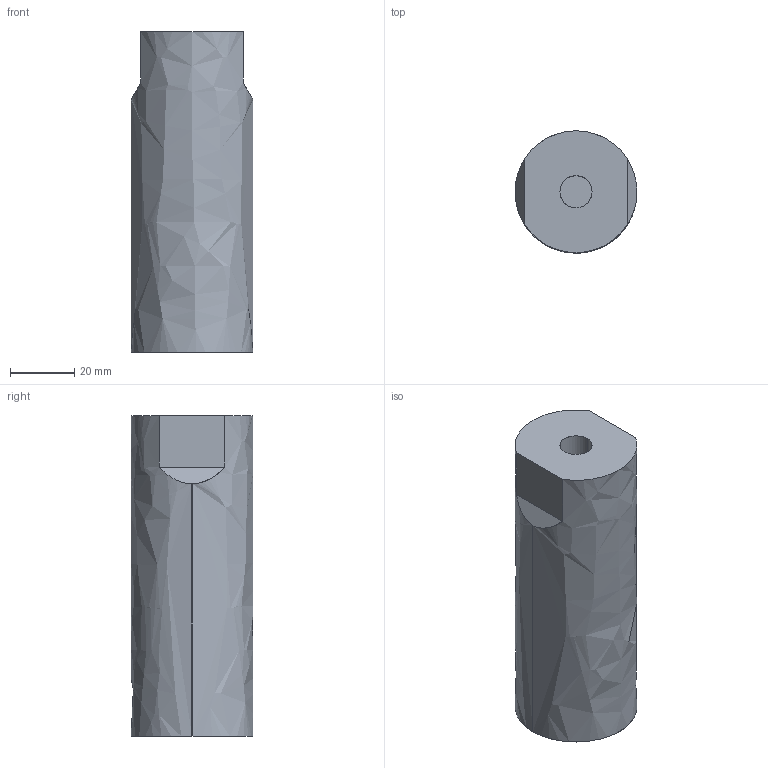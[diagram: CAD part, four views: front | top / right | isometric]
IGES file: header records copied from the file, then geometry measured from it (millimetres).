
Global section: file name: E:\UnigraphicsGraphicData\MISUMI_PRESS-PARTS\IGES\3d_sbvm38-100-r_00167_r00.igs; native system: NX V5.0; preprocessor: UGS NX IGES V5.0; author: MISUMI; date: 20110105.162514; units: millimetre
Bounding box: 38 x 38 x 100 mm (x, y, z)
Surface area: 14737.6 mm2 (no closed solid volume)
Topology: 0 solids, 0 shells, 11 faces, 83 edges, 83 vertices
Faces by surface type: bspline 11
